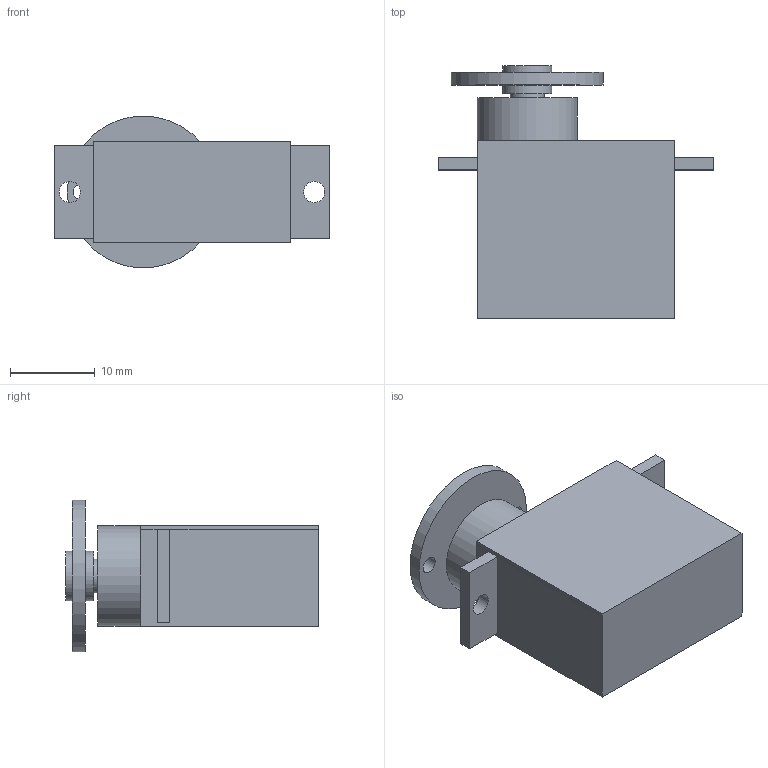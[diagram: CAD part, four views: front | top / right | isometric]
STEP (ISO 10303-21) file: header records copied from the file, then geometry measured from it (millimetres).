
FILE_DESCRIPTION(/* description */ (''),/* implementation_level */ '2;1');
FILE_NAME(/* name */ 'C:/Users/priba/Documents/Temp/Export/mrm-ps-1109hb.step',/* time_stamp */ '2019-09-09T13:00:08+02:00',/* author */ (''),/* organization */ (''),/* preprocessor_version */ 'ST-DEVELOPER v18',/* originating_system */ 'Autodesk Translation Framework v8.6.0.1094',/* authorisation */ '');
FILE_SCHEMA (('AUTOMOTIVE_DESIGN { 1 0 10303 214 3 1 1 }'));
Length unit declared in the file: millimetre
Products named in the file (2): mrm-ps-1109hb; Horn
Assembly tree (1 placements, depth 2):
  mrm-ps-1109hb
    Horn
Bounding box: 32.5 x 29.8 x 17.9 mm (x, y, z)
Volume: 6979.2 mm3; surface area: 3188.4 mm2
Topology: 3 solids, 3 shells, 38 faces, 83 edges, 54 vertices
Faces by surface type: plane 26, cylinder 12
Full cylindrical faces by diameter (mm): 2 x3, 2.5 x2, 4 x2, 4.1 x1, 5.8 x2, 11.8 x1, 17.9 x1
Entity records: 1118 total; most frequent: DIRECTION 191, CARTESIAN_POINT 178, ORIENTED_EDGE 166, EDGE_CURVE 83, AXIS2_PLACEMENT_3D 67, LINE 57, VECTOR 57, VERTEX_POINT 54
